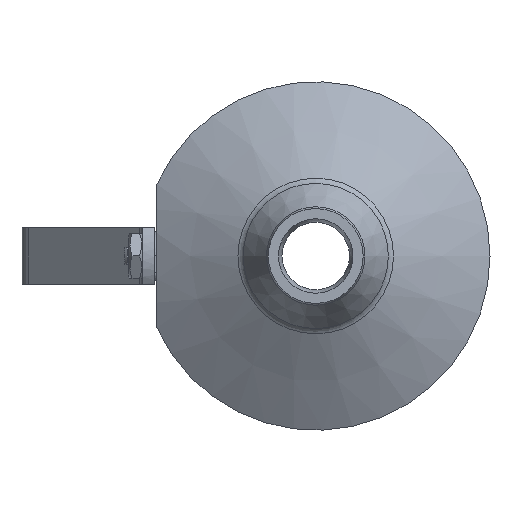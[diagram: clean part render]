
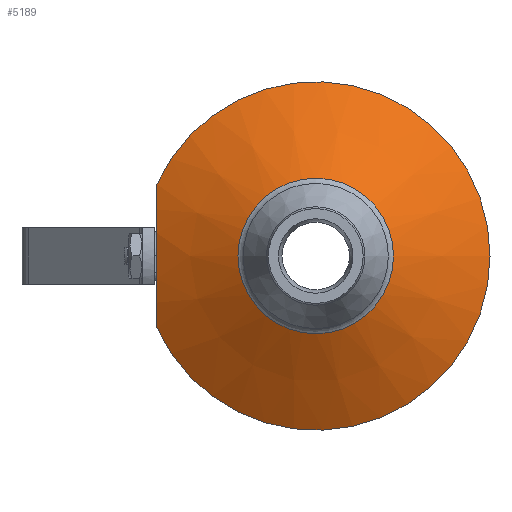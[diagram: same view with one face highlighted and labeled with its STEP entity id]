
A CAD part, left-side view. The second image highlights one B-rep face of the part: STEP entity #5189.
In plain terms, the highlighted conical face has half-angle 60 degrees and reference radius 44.83 mm.
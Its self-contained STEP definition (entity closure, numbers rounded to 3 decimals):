
#4979=CARTESIAN_POINT('',(-23.,56.5,-25.529));
#4980=VERTEX_POINT('',#4979);
#4987=CARTESIAN_POINT('',(-23.,56.5,25.529));
#4988=VERTEX_POINT('',#4987);
#4989=CARTESIAN_POINT('',(-23.,56.5,25.529));
#4990=CARTESIAN_POINT('',(-29.069,56.5,0.0));
#4991=CARTESIAN_POINT('',(-23.,56.5,-25.529));
#4999=(BOUNDED_CURVE()B_SPLINE_CURVE(2,(#4989,#4990,#4991),.UNSPECIFIED.,.F.,.U.)B_SPLINE_CURVE_WITH_KNOTS((3,3),(0.0,5.145),.UNSPECIFIED.)CURVE()GEOMETRIC_REPRESENTATION_ITEM()RATIONAL_B_SPLINE_CURVE((1.0,1.097,1.0))REPRESENTATION_ITEM(''));
#5000=EDGE_CURVE('',#4988,#4980,#4999,.T.);
#5163=CARTESIAN_POINT('',(-32.913,0.0,0.0));
#5164=DIRECTION('',(1.0,0.0,0.0));
#5165=DIRECTION('',(0.0,-1.0,0.0));
#5166=AXIS2_PLACEMENT_3D('',#5163,#5164,#5165);
#5167=CONICAL_SURFACE('',#5166,44.83,60.);
#5168=ORIENTED_EDGE('',*,*,#5000,.T.);
#5169=CARTESIAN_POINT('',(-23.,0.0,0.0));
#5170=DIRECTION('',(-1.0,0.0,0.0));
#5171=DIRECTION('',(0.0,-1.0,0.0));
#5172=AXIS2_PLACEMENT_3D('',#5169,#5170,#5171);
#5173=CIRCLE('',#5172,62.0);
#5174=EDGE_CURVE('',#4980,#4988,#5173,.T.);
#5175=ORIENTED_EDGE('',*,*,#5174,.T.);
#5176=EDGE_LOOP('',(#5168,#5175));
#5177=FACE_OUTER_BOUND('',#5176,.T.);
#5178=CARTESIAN_POINT('',(-42.826,-27.66,0.0));
#5179=VERTEX_POINT('',#5178);
#5180=CARTESIAN_POINT('',(-42.826,0.0,0.0));
#5181=DIRECTION('',(-1.0,0.0,0.0));
#5182=DIRECTION('',(0.0,-1.0,0.0));
#5183=AXIS2_PLACEMENT_3D('',#5180,#5181,#5182);
#5184=CIRCLE('',#5183,27.66);
#5185=EDGE_CURVE('',#5179,#5179,#5184,.T.);
#5186=ORIENTED_EDGE('',*,*,#5185,.F.);
#5187=EDGE_LOOP('',(#5186));
#5188=FACE_BOUND('',#5187,.T.);
#5189=ADVANCED_FACE('',(#5177,#5188),#5167,.T.);
